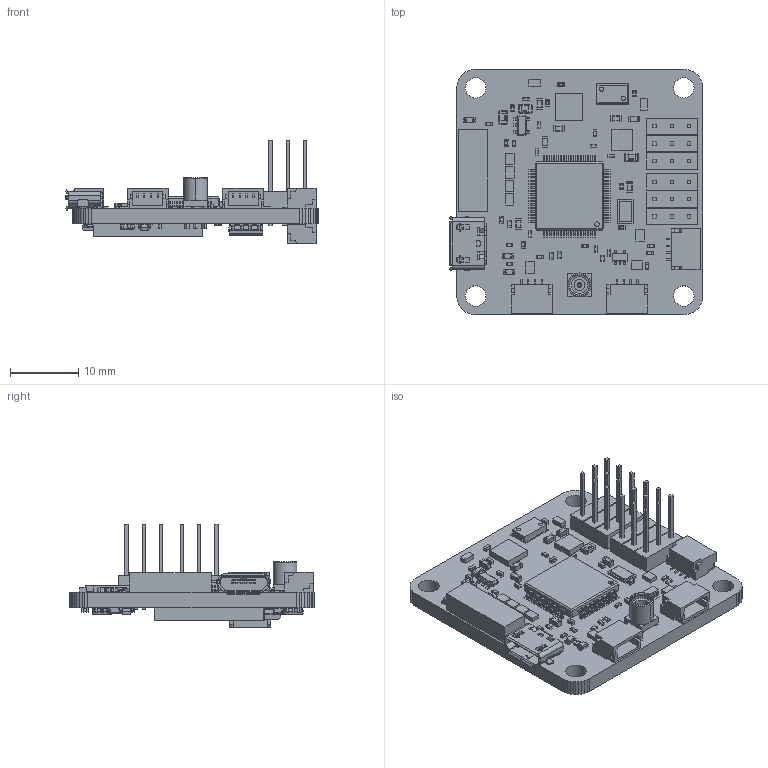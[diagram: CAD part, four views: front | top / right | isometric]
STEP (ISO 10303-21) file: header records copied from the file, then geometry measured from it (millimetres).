
FILE_DESCRIPTION(('Open CASCADE Model'),'2;1');
FILE_NAME('Open CASCADE Shape Model','2014-11-21T12:42:14',('Author'),( 'Open CASCADE'),'Open CASCADE STEP processor 6.2','Open CASCADE 6.2' ,'Unknown');
FILE_SCHEMA(('AUTOMOTIVE_DESIGN { 1 0 10303 214 1 1 1 1 }'));
Length unit declared in the file: millimetre
Products named in the file (145): PCB; Board; L3; 656629312; Extruded; C31; 0805_SMD_Capacitor; C30; 0402HD; User_Library-V0402HD_Anschl_X_FCsse_1; User_Library-V0402HD_K_X_F6rper_1; C20; R18; res0402; R17; R16; C10; R7; R6; U7; 610944568; Cylinder; 656627904; 656628032; C29; R15; R14; U6; 656628928; C28; User_Library-cap_0603-1; C26; C22; C21; C12; C11; CONN6; SM04B-SRSS-TB; U8; SOIC-8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
Assembly tree (234 placements, depth 4):
  PCB
    Board
    L3
      656629312
        Extruded
    C31
      0805_SMD_Capacitor
    C30
      0402HD
        User_Library-V0402HD_Anschl_X_FCsse_1
        User_Library-V0402HD_K_X_F6rper_1
    C20
      0402HD
        User_Library-V0402HD_Anschl_X_FCsse_1
        User_Library-V0402HD_K_X_F6rper_1
    R18
      res0402
    R17
      res0402
    R16
      res0402
    C10
      0402HD
        User_Library-V0402HD_Anschl_X_FCsse_1
        User_Library-V0402HD_K_X_F6rper_1
    R7
      res0402
    R6
      res0402
    U7
      610944568  x2
        Cylinder
      656627904
        Extruded
      656628032
        Extruded
    C29
      0402HD
        User_Library-V0402HD_Anschl_X_FCsse_1
        User_Library-V0402HD_K_X_F6rper_1
    R15
      res0402
    R14
      res0402
    U6
      656628928
        Extruded
    C28
      User_Library-cap_0603-1
    C26
      User_Library-cap_0603-1
    C22
      0805_SMD_Capacitor
    C21
      0402HD
        User_Library-V0402HD_Anschl_X_FCsse_1
        User_Library-V0402HD_K_X_F6rper_1
    C12
      User_Library-cap_0603-1
    C11
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Bounding box: 37.11 x 36.02 x 15.21 mm (x, y, z)
Volume: 4334.9 mm3; surface area: 6934.5 mm2
Topology: 154 solids, 154 shells, 5911 faces, 14718 edges, 9003 vertices
Faces by surface type: plane 3545, cylinder 1583, bspline 659, sphere 112, cone 10, torus 2
Full cylindrical faces by diameter (mm): 0.6 x2, 0.8 x5, 1.016 x18, 3 x4
Entity records: 180513 total; most frequent: CARTESIAN_POINT 48193, DIRECTION 20539, LINE 12710, VECTOR 12710, ORIENTED_EDGE 12066, PCURVE 12066, DEFINITIONAL_REPRESENTATION 12066, EDGE_CURVE 6033
